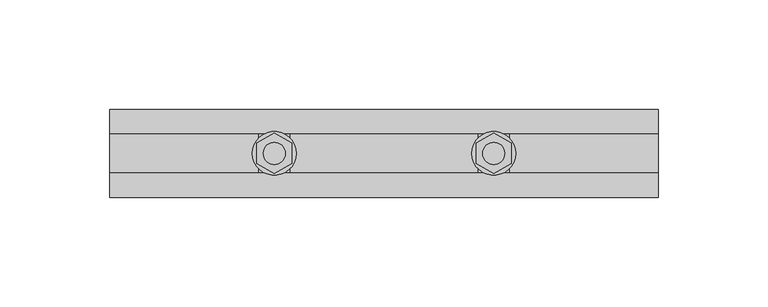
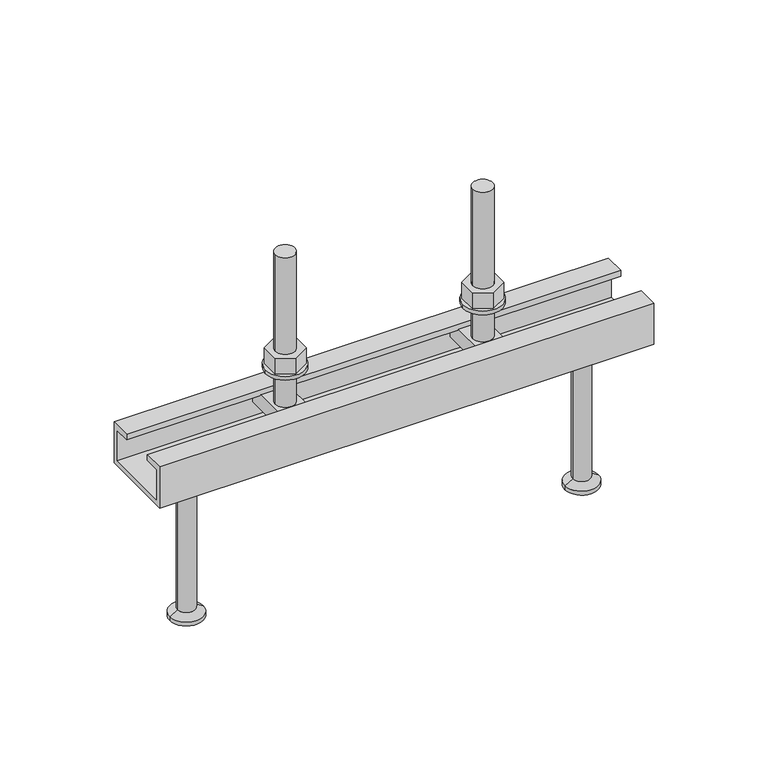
"""IFC4 building model written with IfcOpenShell, lengths in millimetres: fastener geometry, JTA-W JORDAHL® AnchorChannels : JTA-W L=250 mm."""

from ifc_helpers import new_model, si_unit, point, frame, frame_2d, origin, place, context, project, spatial, polyline, circle_curve, trimmed, segment, composite_curve, outline, extrude, source, transform, mapped, element, save
from ifc_brep_helpers import plane_surface, cylinder_surface, revolved_surface, advanced_brep


def fastener_ccbf12a1(model_context):
    return source(origin(), model_context, "Body", "SolidModel", [
        extrude(outline(polyline([(175.0, 9.2376043), (183.0, 4.6188022), (183.0, -4.6188022), (175.0, -9.2376043), (167.0, -4.6188022), (167.0, 4.6188022), (175.0, 9.2376043)]), holes=[composite_curve([segment(trimmed(circle_curve(frame_2d((175.0, 0.0)), 5.0), [point((170.0, 0.0))], [point((180.0, 0.0))], True, "CARTESIAN"), True, "CONTINUOUS"), segment(trimmed(circle_curve(frame_2d((175.0, 0.0)), 5.0), [point((180.0, 0.0))], [point((170.0, 0.0))], True, "CARTESIAN"), True, "CONTINUOUS")], self_intersect=False)]), frame((0.0, 0.0, 17.0), z_axis=(0.0, 0.0, 1.0), x_axis=(1.0, 0.0, 0.0)), (0.0, 0.0, 1.0), 8.4),
        extrude(outline(composite_curve([segment(trimmed(circle_curve(frame_2d((175.0, 0.0)), 10.0), [point((165.0, 0.0))], [point((185.0, 0.0))], False, "CARTESIAN"), True, "CONTINUOUS"), segment(trimmed(circle_curve(frame_2d((175.0, 0.0)), 10.0), [point((185.0, 0.0))], [point((165.0, 0.0))], False, "CARTESIAN"), True, "CONTINUOUS")], self_intersect=False), holes=[composite_curve([segment(trimmed(circle_curve(frame_2d((175.0, 0.0)), 5.25), [point((169.75, 0.0))], [point((180.25, 0.0))], True, "CARTESIAN"), True, "CONTINUOUS"), segment(trimmed(circle_curve(frame_2d((175.0, 0.0)), 5.25), [point((180.25, 0.0))], [point((169.75, 0.0))], True, "CARTESIAN"), True, "CONTINUOUS")], self_intersect=False)]), frame((0.0, 0.0, 15.0), z_axis=(0.0, 0.0, 1.0), x_axis=(1.0, 0.0, 0.0)), (0.0, 0.0, 1.0), 2.0),
        extrude(outline(polyline([(75.0, 9.2376043), (83.0, 4.6188022), (83.0, -4.6188022), (75.0, -9.2376043), (67.0, -4.6188022), (67.0, 4.6188022), (75.0, 9.2376043)]), holes=[composite_curve([segment(trimmed(circle_curve(frame_2d((75.0, 0.0)), 5.0), [point((70.0, 0.0))], [point((80.0, 0.0))], True, "CARTESIAN"), True, "CONTINUOUS"), segment(trimmed(circle_curve(frame_2d((75.0, 0.0)), 5.0), [point((80.0, 0.0))], [point((70.0, 0.0))], True, "CARTESIAN"), True, "CONTINUOUS")], self_intersect=False)]), frame((0.0, 0.0, 17.0), z_axis=(0.0, 0.0, 1.0), x_axis=(1.0, 0.0, 0.0)), (0.0, 0.0, 1.0), 8.4),
        extrude(outline(composite_curve([segment(trimmed(circle_curve(frame_2d((75.0, 0.0)), 10.0), [point((65.0, 0.0))], [point((85.0, 0.0))], False, "CARTESIAN"), True, "CONTINUOUS"), segment(trimmed(circle_curve(frame_2d((75.0, 0.0)), 10.0), [point((85.0, 0.0))], [point((65.0, 0.0))], False, "CARTESIAN"), True, "CONTINUOUS")], self_intersect=False), holes=[composite_curve([segment(trimmed(circle_curve(frame_2d((75.0, 0.0)), 5.25), [point((69.75, 0.0))], [point((80.25, 0.0))], True, "CARTESIAN"), True, "CONTINUOUS"), segment(trimmed(circle_curve(frame_2d((75.0, 0.0)), 5.25), [point((80.25, 0.0))], [point((69.75, 0.0))], True, "CARTESIAN"), True, "CONTINUOUS")], self_intersect=False)]), frame((0.0, 0.0, 15.0), z_axis=(0.0, 0.0, 1.0), x_axis=(1.0, 0.0, 0.0)), (0.0, 0.0, 1.0), 2.0),
        advanced_brep(
        [(182.0, 16.25, -3.0), (182.0, -16.25, -3.0), (182.0, -16.25, -11.0), (182.0, 16.25, -11.0), (168.0, 16.25, -3.0), (168.0, 16.25, -11.0), (168.0, -16.25, -11.0), (168.0, -16.25, -3.0), (180.0, 0.0, -3.0), (170.0, 0.0, -3.0), (170.0, 0.0, 77.0), (180.0, 0.0, 77.0)],
        [
            (0, 1),
            (1, 2),
            (2, 3),
            (3, 0),
            (4, 5),
            (5, 6),
            (6, 7),
            (7, 4),
            (0, 4),
            (7, 1),
            (8, 9, circle_curve(frame((175.0, 0.0, -3.0), z_axis=(0.0, 0.0, -1.0), x_axis=(1.0, 0.0, 0.0)), 5.0)),
            (9, 8, circle_curve(frame((175.0, 0.0, -3.0), z_axis=(0.0, 0.0, -1.0), x_axis=(1.0, 0.0, 0.0)), 5.0)),
            (6, 2),
            (5, 3),
            (10, 11, circle_curve(frame((175.0, 0.0, 77.0), z_axis=(0.0, 0.0, 1.0), x_axis=(1.0, 0.0, 0.0)), 5.0)),
            (11, 10, circle_curve(frame((175.0, 0.0, 77.0), z_axis=(0.0, 0.0, 1.0), x_axis=(1.0, 0.0, 0.0)), 5.0)),
            (10, 9),
            (8, 11),
        ],
        [
            plane_surface(frame((182.0, -16.25, -3.0), z_axis=(1.0, 0.0, 0.0), x_axis=(0.0, -1.0, 0.0))),
            plane_surface(frame((168.0, -16.25, -3.0), z_axis=(-1.0, 0.0, 0.0), x_axis=(0.0, 1.0, 0.0))),
            plane_surface(frame((182.0, 16.25, -3.0), z_axis=(0.0, 0.0, 1.0), x_axis=(-1.0, 0.0, 0.0))),
            plane_surface(frame((182.0, -16.25, -3.0), z_axis=(0.0, -1.0, 0.0), x_axis=(-1.0, 0.0, 0.0))),
            plane_surface(frame((182.0, -16.25, -11.0), z_axis=(0.0, 0.0, -1.0), x_axis=(-1.0, 0.0, 0.0))),
            plane_surface(frame((182.0, 16.25, -11.0), z_axis=(0.0, 1.0, 0.0), x_axis=(-1.0, 0.0, 0.0))),
            plane_surface(frame((180.0, 0.0, 77.0), z_axis=(0.0, 0.0, 1.0), x_axis=(0.0, 1.0, 0.0))),
            cylinder_surface(frame((175.0, 0.0, -3.0), z_axis=(0.0, 0.0, 1.0), x_axis=(1.0, 0.0, 0.0)), 5.0),
        ],
        [
            (0, [[1, 2, 3, 4]]),
            (1, [[5, 6, 7, 8]]),
            (2, [[-1, 9, -8, 10], [11, 12]]),
            (3, [[-2, -10, -7, 13]]),
            (4, [[-3, -13, -6, 14]]),
            (5, [[-4, -14, -5, -9]]),
            (6, [[15, 16]]),
            (7, [[-15, 17, -11, 18]]),
            (7, [[-16, -18, -12, -17]]),
        ],
    ),
        advanced_brep(
        [(82.0, 16.25, -3.0), (82.0, -16.25, -3.0), (82.0, -16.25, -11.0), (82.0, 16.25, -11.0), (68.0, 16.25, -3.0), (68.0, 16.25, -11.0), (68.0, -16.25, -11.0), (68.0, -16.25, -3.0), (80.0, 0.0, -3.0), (70.0, 0.0, -3.0), (70.0, 0.0, 77.0), (80.0, 0.0, 77.0)],
        [
            (0, 1),
            (1, 2),
            (2, 3),
            (3, 0),
            (4, 5),
            (5, 6),
            (6, 7),
            (7, 4),
            (0, 4),
            (7, 1),
            (8, 9, circle_curve(frame((75.0, 0.0, -3.0), z_axis=(0.0, 0.0, -1.0), x_axis=(1.0, 0.0, 0.0)), 5.0)),
            (9, 8, circle_curve(frame((75.0, 0.0, -3.0), z_axis=(0.0, 0.0, -1.0), x_axis=(1.0, 0.0, 0.0)), 5.0)),
            (6, 2),
            (5, 3),
            (10, 11, circle_curve(frame((75.0, 0.0, 77.0), z_axis=(0.0, 0.0, 1.0), x_axis=(1.0, 0.0, 0.0)), 5.0)),
            (11, 10, circle_curve(frame((75.0, 0.0, 77.0), z_axis=(0.0, 0.0, 1.0), x_axis=(1.0, 0.0, 0.0)), 5.0)),
            (10, 9),
            (8, 11),
        ],
        [
            plane_surface(frame((82.0, -16.25, -3.0), z_axis=(1.0, 0.0, 0.0), x_axis=(0.0, -1.0, 0.0))),
            plane_surface(frame((68.0, -16.25, -3.0), z_axis=(-1.0, 0.0, 0.0), x_axis=(0.0, 1.0, 0.0))),
            plane_surface(frame((82.0, 16.25, -3.0), z_axis=(0.0, 0.0, 1.0), x_axis=(-1.0, 0.0, 0.0))),
            plane_surface(frame((82.0, -16.25, -3.0), z_axis=(0.0, -1.0, 0.0), x_axis=(-1.0, 0.0, 0.0))),
            plane_surface(frame((82.0, -16.25, -11.0), z_axis=(0.0, 0.0, -1.0), x_axis=(-1.0, 0.0, 0.0))),
            plane_surface(frame((82.0, 16.25, -11.0), z_axis=(0.0, 1.0, 0.0), x_axis=(-1.0, 0.0, 0.0))),
            plane_surface(frame((80.0, 0.0, 77.0), z_axis=(0.0, 0.0, 1.0), x_axis=(0.0, 1.0, 0.0))),
            cylinder_surface(frame((75.0, 0.0, -3.0), z_axis=(0.0, 0.0, 1.0), x_axis=(1.0, 0.0, 0.0)), 5.0),
        ],
        [
            (0, [[1, 2, 3, 4]]),
            (1, [[5, 6, 7, 8]]),
            (2, [[-1, 9, -8, 10], [11, 12]]),
            (3, [[-2, -10, -7, 13]]),
            (4, [[-3, -13, -6, 14]]),
            (5, [[-4, -14, -5, -9]]),
            (6, [[15, 16]]),
            (7, [[-15, 17, -11, 18]]),
            (7, [[-16, -18, -12, -17]]),
        ],
    ),
        advanced_brep(
        [(225.0, 0.0, -22.0), (238.5, 0.0, -22.0), (211.5, 0.0, -22.0), (216.5, 0.0, -100.0), (233.5, 0.0, -100.0), (225.0, 0.0, -100.0), (216.5, 0.0, -98.0), (233.5, 0.0, -98.0), (220.5, 0.0, -95.6905989), (229.5, 0.0, -95.6905989), (220.5, 0.0, -24.5), (229.5, 0.0, -24.5)],
        [
            (0, 1),
            (1, 2, circle_curve(frame((225.0, 0.0, -22.0), z_axis=(0.0, 0.0, 1.0), x_axis=(1.0, 0.0, 0.0)), 13.5)),
            (2, 0),
            (2, 1, circle_curve(frame((225.0, 0.0, -22.0), z_axis=(0.0, 0.0, 1.0), x_axis=(1.0, 0.0, 0.0)), 13.5)),
            (3, 4, circle_curve(frame((225.0, 0.0, -100.0), z_axis=(0.0, 0.0, -1.0), x_axis=(1.0, 0.0, 0.0)), 8.5)),
            (4, 5),
            (5, 3),
            (4, 3, circle_curve(frame((225.0, 0.0, -100.0), z_axis=(0.0, 0.0, -1.0), x_axis=(1.0, 0.0, 0.0)), 8.5)),
            (6, 7, circle_curve(frame((225.0, 0.0, -98.0), z_axis=(0.0, 0.0, -1.0), x_axis=(1.0, 0.0, 0.0)), 8.5)),
            (7, 4),
            (3, 6),
            (7, 6, circle_curve(frame((225.0, 0.0, -98.0), z_axis=(0.0, 0.0, -1.0), x_axis=(1.0, 0.0, 0.0)), 8.5)),
            (8, 9, circle_curve(frame((225.0, 0.0, -95.6905989), z_axis=(0.0, 0.0, -1.0), x_axis=(1.0, 0.0, 0.0)), 4.5)),
            (9, 7),
            (6, 8),
            (9, 8, circle_curve(frame((225.0, 0.0, -95.6905989), z_axis=(0.0, 0.0, -1.0), x_axis=(1.0, 0.0, 0.0)), 4.5)),
            (10, 11, circle_curve(frame((225.0, 0.0, -24.5), z_axis=(0.0, 0.0, -1.0), x_axis=(1.0, 0.0, 0.0)), 4.5)),
            (11, 9),
            (8, 10),
            (11, 10, circle_curve(frame((225.0, 0.0, -24.5), z_axis=(0.0, 0.0, -1.0), x_axis=(1.0, 0.0, 0.0)), 4.5)),
            (1, 11),
            (10, 2),
        ],
        [
            plane_surface(frame((225.0, 0.0, -22.0), z_axis=(0.0, 0.0, 1.0), x_axis=(1.0, 0.0, 0.0))),
            plane_surface(frame((225.0, 0.0, -100.0), z_axis=(0.0, 0.0, -1.0), x_axis=(1.0, 0.0, 0.0))),
            cylinder_surface(frame((225.0, 0.0, 2292.3150031), z_axis=(0.0, 0.0, 1.0), x_axis=(1.0, 0.0, 0.0)), 8.5),
            revolved_surface(polyline([(233.5, 0.0, -98.0), (229.5, 0.0, -95.6905989)]), (225.0, 0.0, 2292.3150031), (0.0, 0.0, 1.0)),
            cylinder_surface(frame((225.0, 0.0, 2292.3150031), z_axis=(0.0, 0.0, 1.0), x_axis=(1.0, 0.0, 0.0)), 4.5),
            revolved_surface(polyline([(229.5, 0.0, -24.5), (238.5, 0.0, -22.0)]), (225.0, 0.0, 2292.3150031), (0.0, 0.0, 1.0)),
        ],
        [
            (0, [[1, 2, 3]]),
            (0, [[-3, 4, -1]]),
            (1, [[5, 6, 7]]),
            (1, [[8, -7, -6]]),
            (2, [[9, 10, -5, 11]]),
            (2, [[12, -11, -8, -10]]),
            (3, [[13, 14, -9, 15]]),
            (3, [[16, -15, -12, -14]]),
            (4, [[17, 18, -13, 19]]),
            (4, [[20, -19, -16, -18]]),
            (5, [[-2, 21, -17, 22]]),
            (5, [[-4, -22, -20, -21]]),
        ],
    ),
        advanced_brep(
        [(25.0, 0.0, -22.0), (38.5, 0.0, -22.0), (11.5, 0.0, -22.0), (16.5, 0.0, -100.0), (33.5, 0.0, -100.0), (25.0, 0.0, -100.0), (16.5, 0.0, -98.0), (33.5, 0.0, -98.0), (20.5, 0.0, -95.6905989), (29.5, 0.0, -95.6905989), (20.5, 0.0, -24.5), (29.5, 0.0, -24.5)],
        [
            (0, 1),
            (1, 2, circle_curve(frame((25.0, 0.0, -22.0), z_axis=(0.0, 0.0, 1.0), x_axis=(1.0, 0.0, 0.0)), 13.5)),
            (2, 0),
            (2, 1, circle_curve(frame((25.0, 0.0, -22.0), z_axis=(0.0, 0.0, 1.0), x_axis=(1.0, 0.0, 0.0)), 13.5)),
            (3, 4, circle_curve(frame((25.0, 0.0, -100.0), z_axis=(0.0, 0.0, -1.0), x_axis=(1.0, 0.0, 0.0)), 8.5)),
            (4, 5),
            (5, 3),
            (4, 3, circle_curve(frame((25.0, 0.0, -100.0), z_axis=(0.0, 0.0, -1.0), x_axis=(1.0, 0.0, 0.0)), 8.5)),
            (6, 7, circle_curve(frame((25.0, 0.0, -98.0), z_axis=(0.0, 0.0, -1.0), x_axis=(1.0, 0.0, 0.0)), 8.5)),
            (7, 4),
            (3, 6),
            (7, 6, circle_curve(frame((25.0, 0.0, -98.0), z_axis=(0.0, 0.0, -1.0), x_axis=(1.0, 0.0, 0.0)), 8.5)),
            (8, 9, circle_curve(frame((25.0, 0.0, -95.6905989), z_axis=(0.0, 0.0, -1.0), x_axis=(1.0, 0.0, 0.0)), 4.5)),
            (9, 7),
            (6, 8),
            (9, 8, circle_curve(frame((25.0, 0.0, -95.6905989), z_axis=(0.0, 0.0, -1.0), x_axis=(1.0, 0.0, 0.0)), 4.5)),
            (10, 11, circle_curve(frame((25.0, 0.0, -24.5), z_axis=(0.0, 0.0, -1.0), x_axis=(1.0, 0.0, 0.0)), 4.5)),
            (11, 9),
            (8, 10),
            (11, 10, circle_curve(frame((25.0, 0.0, -24.5), z_axis=(0.0, 0.0, -1.0), x_axis=(1.0, 0.0, 0.0)), 4.5)),
            (1, 11),
            (10, 2),
        ],
        [
            plane_surface(frame((25.0, 0.0, -22.0), z_axis=(0.0, 0.0, 1.0), x_axis=(1.0, 0.0, 0.0))),
            plane_surface(frame((25.0, 0.0, -100.0), z_axis=(0.0, 0.0, -1.0), x_axis=(1.0, 0.0, 0.0))),
            cylinder_surface(frame((25.0, 0.0, 2292.3150031), z_axis=(0.0, 0.0, 1.0), x_axis=(1.0, 0.0, 0.0)), 8.5),
            revolved_surface(polyline([(33.5, 0.0, -98.0), (29.5, 0.0, -95.6905989)]), (25.0, 0.0, 2292.3150031), (0.0, 0.0, 1.0)),
            cylinder_surface(frame((25.0, 0.0, 2292.3150031), z_axis=(0.0, 0.0, 1.0), x_axis=(1.0, 0.0, 0.0)), 4.5),
            revolved_surface(polyline([(29.5, 0.0, -24.5), (38.5, 0.0, -22.0)]), (25.0, 0.0, 2292.3150031), (0.0, 0.0, 1.0)),
        ],
        [
            (0, [[1, 2, 3]]),
            (0, [[-3, 4, -1]]),
            (1, [[5, 6, 7]]),
            (1, [[8, -7, -6]]),
            (2, [[9, 10, -5, 11]]),
            (2, [[12, -11, -8, -10]]),
            (3, [[13, 14, -9, 15]]),
            (3, [[16, -15, -12, -14]]),
            (4, [[17, 18, -13, 19]]),
            (4, [[20, -19, -16, -18]]),
            (5, [[-2, 21, -17, 22]]),
            (5, [[-4, -22, -20, -21]]),
        ],
    ),
        extrude(outline(polyline([(20.0, 0.0), (20.0, -22.0), (-20.0, -22.0), (-20.0, 0.0), (-9.0, 0.0), (-9.0, -3.0), (-17.5, -3.0), (-17.5, -19.5), (17.5, -19.5), (17.5, -3.0), (9.0, -3.0), (9.0, 0.0), (20.0, 0.0)])), frame((0.0, 0.0, 0.0), z_axis=(1.0, 0.0, 0.0), x_axis=(0.0, 1.0, 0.0)), (0.0, 0.0, 1.0), 250.0),
    ])


if __name__ == "__main__":
    model = new_model("IFC4")
    model_context = context("Model", 3, world=origin())
    ifc_project = project(units=[si_unit("LENGTHUNIT", "METRE", prefix="MILLI")], contexts=[model_context])
    site = spatial("IfcSite", under=ifc_project)
    building = spatial("IfcBuilding", under=site)
    placement = place(None, origin())
    fastener_shape = fastener_ccbf12a1(model_context)
    element("IfcFastener", 1, ObjectType="JTA-W JORDAHL® AnchorChannels : JTA-W L=250 mm", at=placement, inside=building, context=model_context, shape_type="MappedRepresentation", body=[
        mapped(fastener_shape, transform((0.0, 0.0, 0.0), x_axis=(1.0, 0.0, 0.0), y_axis=(0.0, 1.0, 0.0), z_axis=(0.0, 0.0, 1.0))),
    ])
    save(model, "model.ifc")
